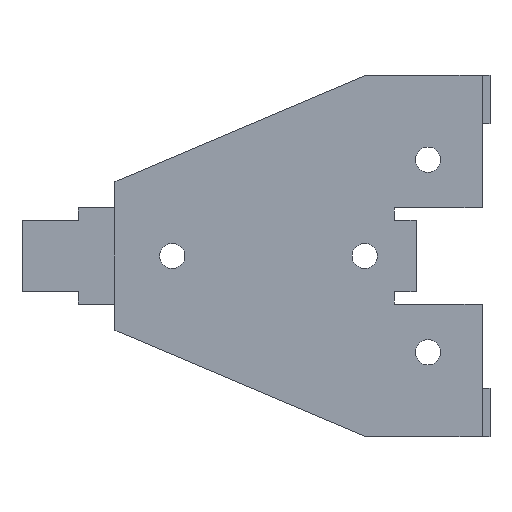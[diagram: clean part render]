
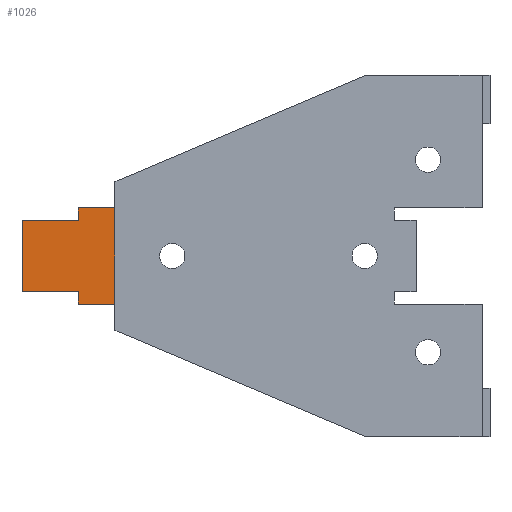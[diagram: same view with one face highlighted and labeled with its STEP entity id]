
A CAD part, left-side view. The second image highlights one B-rep face of the part: STEP entity #1026.
In plain terms, the highlighted planar face has unit normal (-1, 0, 0).
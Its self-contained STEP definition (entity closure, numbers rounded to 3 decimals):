
#22 = EDGE_CURVE ( 'NONE', #578, #1157, #2653, .T. ) ;
#128 = EDGE_CURVE ( 'NONE', #564, #1595, #2805, .T. ) ;
#150 = EDGE_CURVE ( 'NONE', #950, #1156, #2846, .T. ) ;
#158 = EDGE_CURVE ( 'NONE', #564, #578, #2858, .T. ) ;
#190 = EDGE_CURVE ( 'NONE', #1593, #1592, #2922, .T. ) ;
#234 = EDGE_CURVE ( 'NONE', #1595, #1592, #3005, .T. ) ;
#258 = EDGE_CURVE ( 'NONE', #950, #1593, #3053, .T. ) ;
#289 = AXIS2_PLACEMENT_3D ( 'NONE', #3726, #3735, #3736 ) ;
#443 = EDGE_CURVE ( 'NONE', #1157, #1156, #629, .T. ) ;
#564 = VERTEX_POINT ( 'NONE', #3429 ) ;
#578 = VERTEX_POINT ( 'NONE', #3440 ) ;
#629 = LINE ( 'NONE', #3258, #630 ) ;
#630 = VECTOR ( 'NONE', #3259, 1000. ) ;
#861 = FACE_OUTER_BOUND ( 'NONE', #1358, .T. ) ;
#950 = VERTEX_POINT ( 'NONE', #3452 ) ;
#1026 = ADVANCED_FACE ( 'NONE', ( #861 ), #3725, .F. ) ;
#1156 = VERTEX_POINT ( 'NONE', #4005 ) ;
#1157 = VERTEX_POINT ( 'NONE', #4006 ) ;
#1358 = EDGE_LOOP ( 'NONE', ( #2356, #2357, #2358, #2359, #2360, #2361, #2362, #2363 ) ) ;
#1592 = VERTEX_POINT ( 'NONE', #4101 ) ;
#1593 = VERTEX_POINT ( 'NONE', #4102 ) ;
#1595 = VERTEX_POINT ( 'NONE', #4104 ) ;
#1689 = CARTESIAN_POINT ( 'NONE',  ( 1.5, 67.45, 5.9 ) ) ;
#1690 = DIRECTION ( 'NONE',  ( 0., 1., 0. ) ) ;
#1862 = CARTESIAN_POINT ( 'NONE',  ( 1.5, 52., 8. ) ) ;
#1863 = DIRECTION ( 'NONE',  ( 0., -1., 0. ) ) ;
#1909 = CARTESIAN_POINT ( 'NONE',  ( 1.5, 67.45, -5.9 ) ) ;
#1910 = DIRECTION ( 'NONE',  ( 0., 1., 0. ) ) ;
#1927 = CARTESIAN_POINT ( 'NONE',  ( 1.5, 58.1, 30. ) ) ;
#1928 = DIRECTION ( 'NONE',  ( 0., 0., -1. ) ) ;
#1994 = CARTESIAN_POINT ( 'NONE',  ( 1.5, 58.1, -8. ) ) ;
#1995 = DIRECTION ( 'NONE',  ( 0., -1., 0. ) ) ;
#2086 = CARTESIAN_POINT ( 'NONE',  ( 1.5, 52., 30. ) ) ;
#2087 = DIRECTION ( 'NONE',  ( 0., 0., -1. ) ) ;
#2356 = ORIENTED_EDGE ( 'NONE', *, *, #158, .T. ) ;
#2357 = ORIENTED_EDGE ( 'NONE', *, *, #22, .T. ) ;
#2358 = ORIENTED_EDGE ( 'NONE', *, *, #443, .T. ) ;
#2359 = ORIENTED_EDGE ( 'NONE', *, *, #150, .F. ) ;
#2360 = ORIENTED_EDGE ( 'NONE', *, *, #258, .T. ) ;
#2361 = ORIENTED_EDGE ( 'NONE', *, *, #190, .T. ) ;
#2362 = ORIENTED_EDGE ( 'NONE', *, *, #234, .F. ) ;
#2363 = ORIENTED_EDGE ( 'NONE', *, *, #128, .F. ) ;
#2653 = LINE ( 'NONE', #1689, #2654 ) ;
#2654 = VECTOR ( 'NONE', #1690, 1000. ) ;
#2805 = LINE ( 'NONE', #1862, #2806 ) ;
#2806 = VECTOR ( 'NONE', #1863, 1000. ) ;
#2846 = LINE ( 'NONE', #1909, #2847 ) ;
#2847 = VECTOR ( 'NONE', #1910, 1000. ) ;
#2855 = VECTOR ( 'NONE', #1928, 1000. ) ;
#2858 = LINE ( 'NONE', #1927, #2855 ) ;
#2922 = LINE ( 'NONE', #1994, #2923 ) ;
#2923 = VECTOR ( 'NONE', #1995, 1000. ) ;
#3005 = LINE ( 'NONE', #2086, #3006 ) ;
#3006 = VECTOR ( 'NONE', #2087, 1000. ) ;
#3053 = LINE ( 'NONE', #3132, #3054 ) ;
#3054 = VECTOR ( 'NONE', #3133, 1000. ) ;
#3132 = CARTESIAN_POINT ( 'NONE',  ( 1.5, 58.1, 30. ) ) ;
#3133 = DIRECTION ( 'NONE',  ( 0., 0., -1. ) ) ;
#3258 = CARTESIAN_POINT ( 'NONE',  ( 1.5, 67.45, 15.37 ) ) ;
#3259 = DIRECTION ( 'NONE',  ( 0., 0., -1. ) ) ;
#3429 = CARTESIAN_POINT ( 'NONE',  ( 1.5, 58.1, 8. ) ) ;
#3440 = CARTESIAN_POINT ( 'NONE',  ( 1.5, 58.1, 5.9 ) ) ;
#3452 = CARTESIAN_POINT ( 'NONE',  ( 1.5, 58.1, -5.9 ) ) ;
#3725 = PLANE ( 'NONE',  #289 ) ;
#3726 = CARTESIAN_POINT ( 'NONE',  ( 1.5, 58.1, 30. ) ) ;
#3735 = DIRECTION ( 'NONE',  ( 1., 0., 0. ) ) ;
#3736 = DIRECTION ( 'NONE',  ( 0., 0., -1. ) ) ;
#4005 = CARTESIAN_POINT ( 'NONE',  ( 1.5, 67.45, -5.9 ) ) ;
#4006 = CARTESIAN_POINT ( 'NONE',  ( 1.5, 67.45, 5.9 ) ) ;
#4101 = CARTESIAN_POINT ( 'NONE',  ( 1.5, 52., -8. ) ) ;
#4102 = CARTESIAN_POINT ( 'NONE',  ( 1.5, 58.1, -8. ) ) ;
#4104 = CARTESIAN_POINT ( 'NONE',  ( 1.5, 52., 8. ) ) ;
